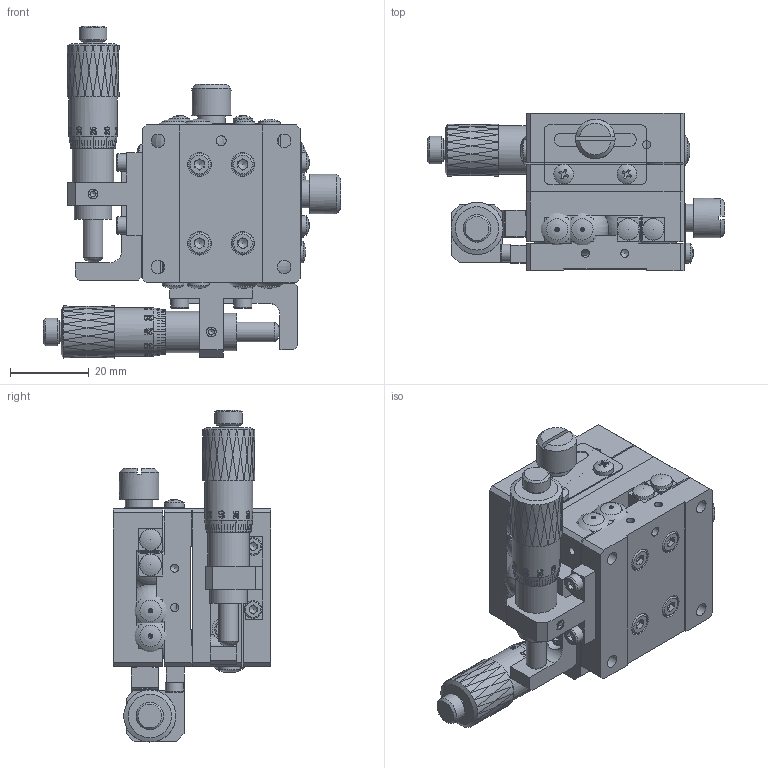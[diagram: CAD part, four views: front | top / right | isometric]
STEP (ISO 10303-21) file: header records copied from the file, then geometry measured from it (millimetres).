
FILE_DESCRIPTION (( 'STEP AP203' ), '1' );
FILE_NAME ('BPEB40.STEP', '2024-07-26T05:42:28', ( 'Windows User' ), ( 'P R C' ), 'SwSTEP 2.0', 'SolidWorks 2024', '' );
FILE_SCHEMA (( 'CONFIG_CONTROL_DESIGN' ));
Length unit declared in the file: millimetre
Products named in the file (1): BPEB40
Bounding box: 75.4 x 40 x 84.2 mm (x, y, z)
Volume: 60459.1 mm3; surface area: 58933.4 mm2
Topology: 58 solids, 58 shells, 2878 faces, 7142 edges, 4628 vertices
Faces by surface type: plane 1182, bspline 790, cylinder 520, cone 340, torus 40, sphere 6
Full cylindrical faces by diameter (mm): 2 x20, 2.05 x30, 2.5 x40, 2.55 x16, 2.95 x18, 3 x22, 3.2 x8, 3.4 x24, 4.4 x16, 4.5 x8, 5 x10, 5.5 x16, 5.8 x4, 6 x24, 7 x4, 8.5 x2, 9.5 x4, 10 x2, 10.5 x2, 12.2 x2
Entity records: 144861 total; most frequent: CARTESIAN_POINT 86953, ORIENTED_EDGE 12960, DIRECTION 8788, EDGE_CURVE 6480, VERTEX_POINT 4430, EDGE_LOOP 3810, AXIS2_PLACEMENT_3D 3265, FACE_OUTER_BOUND 3144
